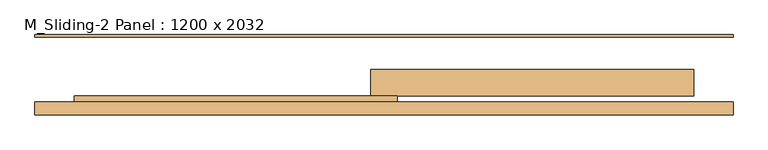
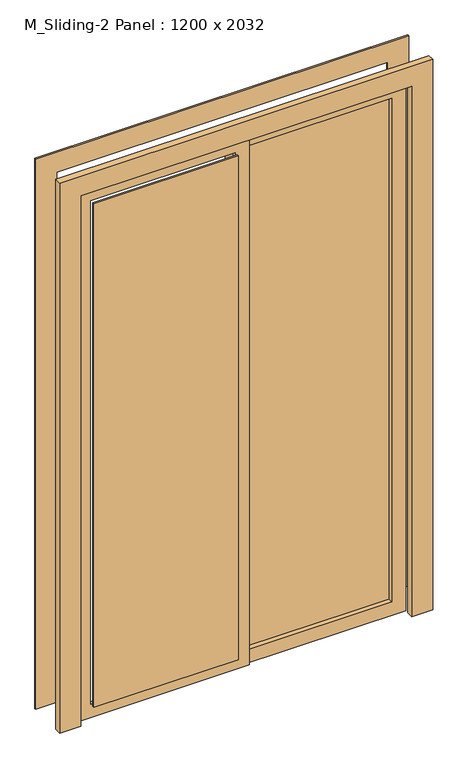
"""IFC4 building model written with IfcOpenShell, lengths in millimetres: door geometry, M_Sliding-2 Panel : 1200 x 2032."""

from ifc_helpers import new_model, si_unit, frame, origin, place, context, project, spatial, polyline, outline, extrude, source, transform, mapped, element, save


def m_sliding_2_panel_1200_x_2032_12837cb9(model_context):
    return source(origin(), model_context, "Body", "SweptSolid", [
        extrude(outline(polyline([(2032.0, 25.4), (2032.0, -600.0), (0.0, -600.0), (0.0, 25.4), (2032.0, 25.4)]), holes=[polyline([(1981.0, -25.6), (51.0, -25.6), (51.0, -549.0), (1981.0, -549.0), (1981.0, -25.6)])]), frame((0.0, -189.5, 0.0), z_axis=(0.0, 1.0, 0.0), x_axis=(0.0, 0.0, 1.0)), (0.0, 0.0, 1.0), 11.7),
        extrude(outline(polyline([(0.0, -676.0), (0.0, -600.0), (2032.0, -600.0), (2032.0, 600.0), (0.0, 600.0), (0.0, 676.0), (2108.0, 676.0), (2108.0, -676.0), (0.0, -676.0)])), frame((0.0, -64.5, 0.0), z_axis=(0.0, 1.0, 0.0), x_axis=(0.0, 0.0, 1.0)), (0.0, 0.0, 1.0), 5.0),
        extrude(outline(polyline([(0.0, 676.0), (2108.0, 676.0), (2108.0, -676.0), (0.0, -676.0), (0.0, -600.0), (2032.0, -600.0), (2032.0, 600.0), (0.0, 600.0), (0.0, 676.0)])), frame((0.0, -214.9, 0.0), z_axis=(0.0, 1.0, 0.0), x_axis=(0.0, 0.0, 1.0)), (0.0, 0.0, 1.0), 25.0),
        extrude(outline(polyline([(549.0, -153.19375), (549.0, -159.54375), (25.6, -159.54375), (25.6, -153.19375), (549.0, -153.19375)])), frame((0.0, 0.0, 51.0), z_axis=(0.0, 0.0, 1.0), x_axis=(1.0, 0.0, 0.0)), (0.0, 0.0, 1.0), 1930.0),
        extrude(outline(polyline([(-25.6, -203.2), (-25.6, -209.55), (-549.0, -209.55), (-549.0, -203.2), (-25.6, -203.2)])), frame((0.0, 0.0, 51.0), z_axis=(0.0, 0.0, 1.0), x_axis=(1.0, 0.0, 0.0)), (0.0, 0.0, 1.0), 1930.0),
        extrude(outline(polyline([(2032.0, -25.4), (0.0, -25.4), (0.0, 600.0), (2032.0, 600.0), (2032.0, -25.4)]), holes=[polyline([(1981.0, 25.6), (1981.0, 549.0), (51.0, 549.0), (51.0, 25.6), (1981.0, 25.6)])]), frame((0.0, -177.8, 0.0), z_axis=(0.0, 1.0, 0.0), x_axis=(0.0, 0.0, 1.0)), (0.0, 0.0, 1.0), 50.8),
    ])


if __name__ == "__main__":
    model = new_model("IFC4")
    model_context = context("Model", 3, world=origin())
    ifc_project = project(units=[si_unit("LENGTHUNIT", "METRE", prefix="MILLI")], contexts=[model_context])
    site = spatial("IfcSite", under=ifc_project)
    building = spatial("IfcBuilding", under=site)
    placement = place(None, origin())
    m_sliding_2_panel_1200_x_2032_shape = m_sliding_2_panel_1200_x_2032_12837cb9(model_context)
    element("IfcDoor", 1, ObjectType="M_Sliding-2 Panel : 1200 x 2032", at=placement, inside=building, context=model_context, shape_type="MappedRepresentation", body=[
        mapped(m_sliding_2_panel_1200_x_2032_shape, transform((0.0, 0.0, 0.0), x_axis=(1.0, 0.0, 0.0), y_axis=(0.0, 1.0, 0.0), z_axis=(0.0, 0.0, 1.0))),
    ])
    save(model, "model.ifc")
